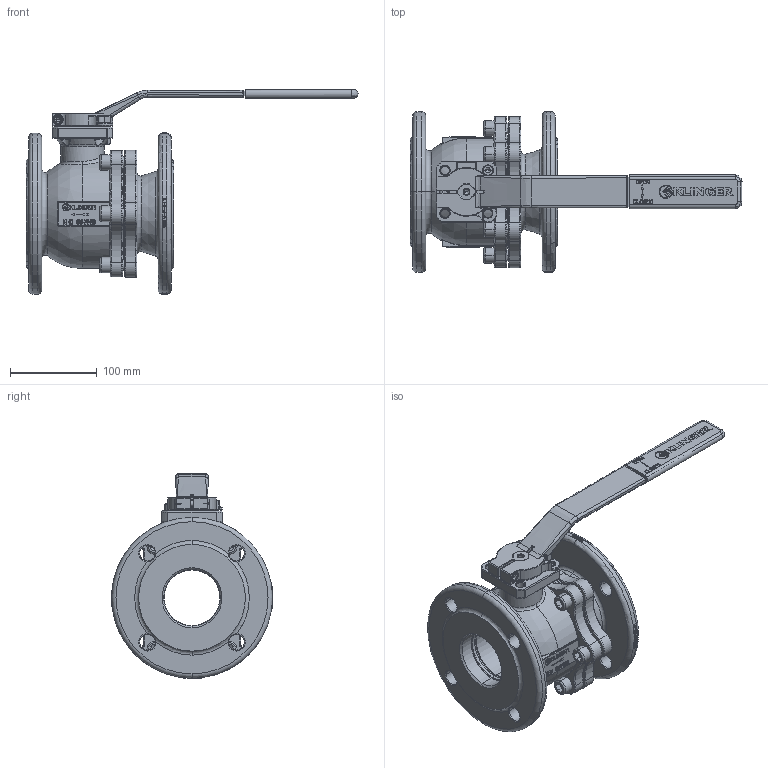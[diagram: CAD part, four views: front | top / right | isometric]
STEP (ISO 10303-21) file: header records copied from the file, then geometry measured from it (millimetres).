
FILE_DESCRIPTION((''),'2;1');
FILE_NAME('KHEFK065VFK065P016PKK','2015-08-07T',('mahrhauserh'),('RAND'),'PRO/ENGINEER BY PARAMETRIC TECHNOLOGY CORPORATION, 2013410','PRO/ENGINEER BY PARAMETRIC TECHNOLOGY CORPORATION, 2013410','');
FILE_SCHEMA(('CONFIG_CONTROL_DESIGN'));
Products named in the file (1): KHEFK065VFK065P016PKK
Bounding box: 382 x 185.9 x 236 mm (x, y, z)
Volume: 1983524.5 mm3; surface area: 387644.5 mm2
Topology: 1 solids, 1 shells, 3215 faces, 8476 edges, 5356 vertices
Faces by surface type: plane 2006, cylinder 487, torus 312, bspline 224, cone 151, sphere 35
Entity records: 119538 total; most frequent: CARTESIAN_POINT 41784, ORIENTED_EDGE 16916, DIRECTION 15281, EDGE_CURVE 8458, VERTEX_POINT 5356, VECTOR 5181, LINE 5181, AXIS2_PLACEMENT_3D 5050
